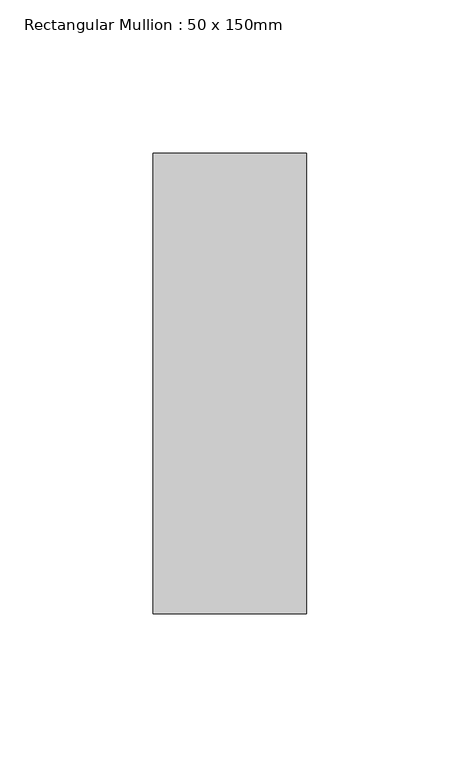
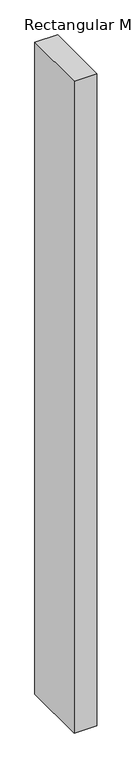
"""IFC4 building model written with IfcOpenShell, lengths in millimetres: member geometry, Rectangular Mullion : 50 x 150mm."""

import ifcopenshell
import ifcopenshell.guid

model = None  # the IFC model being written
_history = None  # IfcOwnerHistory: only IFC2X3 demands one
_inside = {}  # id of a spatial element -> (the spatial element, [elements in it])
_under = {}  # id of a project, library or spatial element -> (it, [spatial elements below it])
_declared = {}  # id of a project -> (the project, [libraries it declares])
_typed = {}  # id of a type object -> (the type object, [elements of that type])
_made_of = {}  # id of a material, layer set ... -> (it, [elements and type objects made of it])


def new_model(schema):
    """Start an empty IFC model of exactly this schema.

    Asked for "IFC4X3", IfcOpenShell would pick the latest addendum, in which some entities
    have other attributes; the version numbers below select the first issue.
    IFC2X3 requires an IfcOwnerHistory on every rooted entity: one is made here for all.
    """
    global model, _history
    if schema == "IFC4X3":
        model = ifcopenshell.file(schema_version=(4, 3, 0, 0))
    else:
        model = ifcopenshell.file(schema=schema)
    _inside.clear()
    _under.clear()
    _declared.clear()
    _typed.clear()
    _made_of.clear()
    _history = None
    if model.schema == "IFC2X3":
        org = make("IfcOrganization", Name="unknown")
        user = make(
            "IfcPersonAndOrganization",
            ThePerson=make("IfcPerson", FamilyName="unknown"),
            TheOrganization=org,
        )
        app = make(
            "IfcApplication",
            ApplicationDeveloper=org,
            Version="unknown",
            ApplicationFullName="unknown",
            ApplicationIdentifier="unknown",
        )
        _history = make(
            "IfcOwnerHistory",
            OwningUser=user,
            OwningApplication=app,
            ChangeAction="ADDED",
            CreationDate=0,
        )
    return model


def make(cls, **values):
    """One entity of the class cls with the attributes given. An attribute that is None is left unset."""
    return model.create_entity(
        cls, **{name: value for name, value in values.items() if value is not None}
    )


def rooted(cls, **values):
    """An entity with a GlobalId (a new one), such as an element, a storey or a relation."""
    return make(cls, GlobalId=ifcopenshell.guid.new(), OwnerHistory=_history, **values)


def si_unit(unit_type, name, prefix=None):
    """IfcSIUnit, for example si_unit("LENGTHUNIT", "METRE", prefix="MILLI")."""
    return make("IfcSIUnit", UnitType=unit_type, Prefix=prefix, Name=name)


def assignment(units):
    """IfcUnitAssignment: the units of a project."""
    return None if units is None else make("IfcUnitAssignment", Units=units)


def point(xyz):
    """IfcCartesianPoint."""
    return None if xyz is None else make("IfcCartesianPoint", Coordinates=xyz)


def direction(xyz):
    """IfcDirection."""
    return None if xyz is None else make("IfcDirection", DirectionRatios=xyz)


def frame(location, z_axis=None, x_axis=None):
    """IfcAxis2Placement3D, a coordinate frame: its origin and axes. An axis left out is left unset."""
    return make(
        "IfcAxis2Placement3D",
        Location=point(location),
        Axis=direction(z_axis),
        RefDirection=direction(x_axis),
    )


def origin():
    """The frame at (0, 0, 0) with its axes left unset."""
    return frame((0.0, 0.0, 0.0))


def place(relative_to, where):
    """IfcLocalPlacement: puts the frame where relative to a parent placement (None: the world)."""
    return make(
        "IfcLocalPlacement", PlacementRelTo=relative_to, RelativePlacement=where
    )


def context(
    kind, dimensions, precision=None, world=None, true_north=None, identifier=None
):
    """IfcGeometricRepresentationContext, for example the 3D "Model" context."""
    return make(
        "IfcGeometricRepresentationContext",
        ContextIdentifier=identifier,
        ContextType=kind,
        CoordinateSpaceDimension=dimensions,
        Precision=precision,
        WorldCoordinateSystem=world,
        TrueNorth=true_north,
    )


def project(units=None, contexts=None):
    """IfcProject with its units and contexts."""
    return rooted(
        "IfcProject",
        Name="project",
        RepresentationContexts=contexts,
        UnitsInContext=assignment(units),
    )


def spatial(cls, under=None, at=None, **own):
    """A site, building, storey or space (cls), placed at a placement, below another one or the project."""
    s = rooted(cls, ObjectPlacement=at, **own)
    if under is not None:
        _under.setdefault(under.id(), (under, []))[1].append(s)
    return s


def polyline(points):
    """IfcPolyline through the points."""
    return make("IfcPolyline", Points=[point(p) for p in points])


def outline(outer, holes=None, kind="AREA"):
    """IfcArbitraryClosedProfileDef: a profile drawn as a closed curve; with holes, ...WithVoids."""
    if holes is None:
        return make("IfcArbitraryClosedProfileDef", ProfileType=kind, OuterCurve=outer)
    return make(
        "IfcArbitraryProfileDefWithVoids",
        ProfileType=kind,
        OuterCurve=outer,
        InnerCurves=holes,
    )


def extrude(swept, where, along, depth):
    """IfcExtrudedAreaSolid: the profile swept, set in the frame where, extruded along a direction by depth."""
    return make(
        "IfcExtrudedAreaSolid",
        SweptArea=swept,
        Position=where,
        ExtrudedDirection=direction(along),
        Depth=depth,
    )


def shape(context_of_items, identifier, shape_type, items):
    """IfcShapeRepresentation: the items that make up one representation, for example the "Body"."""
    return make(
        "IfcShapeRepresentation",
        ContextOfItems=context_of_items,
        RepresentationIdentifier=identifier,
        RepresentationType=shape_type,
        Items=items,
    )


def source(mapping_origin, context_of_items, identifier, shape_type, items):
    """IfcRepresentationMap: a shape defined once, which mapped items show again and again."""
    return make(
        "IfcRepresentationMap",
        MappingOrigin=mapping_origin,
        MappedRepresentation=shape(context_of_items, identifier, shape_type, items),
    )


def transform(
    local_origin,
    x_axis=None,
    y_axis=None,
    z_axis=None,
    scale=None,
    scale2=None,
    scale3=None,
    uniform=True,
):
    """IfcCartesianTransformationOperator3D, or its non-uniform kind. x_axis, y_axis, z_axis: its Axis1, 2, 3."""
    if uniform:
        return make(
            "IfcCartesianTransformationOperator3D",
            Axis1=direction(x_axis),
            Axis2=direction(y_axis),
            LocalOrigin=point(local_origin),
            Scale=scale,
            Axis3=direction(z_axis),
        )
    return make(
        "IfcCartesianTransformationOperator3DnonUniform",
        Axis1=direction(x_axis),
        Axis2=direction(y_axis),
        LocalOrigin=point(local_origin),
        Scale=scale,
        Axis3=direction(z_axis),
        Scale2=scale2,
        Scale3=scale3,
    )


def mapped(mapping_source, mapping_target):
    """IfcMappedItem: shows the shape of a source again, moved by a transform."""
    return make(
        "IfcMappedItem", MappingSource=mapping_source, MappingTarget=mapping_target
    )


def made_of(thing, what):
    """Note that an element or type object is made of a material, layer set ...; save() writes the relation."""
    if what is not None:
        _made_of.setdefault(what.id(), (what, []))[1].append(thing)
    return thing


def element(
    cls,
    number,
    at=None,
    inside=None,
    cuts=None,
    type_object=None,
    material=None,
    context=None,
    identifier="Body",
    shape_type=None,
    held_by="IfcProductDefinitionShape",
    body=None,
    shapes=None,
    **own,
):
    """One element of the class cls, such as IfcWall. Its Tag is "e" and its number.

    at: its placement. inside: the storey or other place that contains it. cuts: it is an
    opening in that element (IfcRelVoidsElement). A single representation is given by context,
    identifier, shape_type and body (its items); several are given by shapes. held_by: the class
    of the entity that holds the representations. save() writes the other relations.
    """
    e = rooted(cls, Tag="e%d" % number, ObjectPlacement=at, **own)
    if body is not None:
        shapes = [shape(context, identifier, shape_type, body)]
    if shapes is not None:
        e.Representation = make(held_by, Representations=shapes)
    if inside is not None:
        _inside.setdefault(inside.id(), (inside, []))[1].append(e)
    if cuts is not None:
        rooted(
            "IfcRelVoidsElement", RelatingBuildingElement=cuts, RelatedOpeningElement=e
        )
    if type_object is not None:
        _typed.setdefault(type_object.id(), (type_object, []))[1].append(e)
    return made_of(e, material)


def aggregate(whole, parts):
    """IfcRelAggregates: a whole, such as a stair, and the parts it consists of."""
    return rooted("IfcRelAggregates", RelatingObject=whole, RelatedObjects=parts)


def save(model, path):
    """Write the relations noted so far, then the file.

    IfcRelAggregates (storeys below a building ...), IfcRelContainedInSpatialStructure (elements
    in a storey), IfcRelDefinesByType, IfcRelAssociatesMaterial and IfcRelDeclares: one each for
    every whole, place, type object, material and project.
    """
    for whole, parts in _under.values():
        aggregate(whole, parts)
    for where, things in _inside.values():
        rooted(
            "IfcRelContainedInSpatialStructure",
            RelatedElements=things,
            RelatingStructure=where,
        )
    for kind, things in _typed.values():
        rooted("IfcRelDefinesByType", RelatedObjects=things, RelatingType=kind)
    for what, things in _made_of.values():
        rooted("IfcRelAssociatesMaterial", RelatedObjects=things, RelatingMaterial=what)
    for by, libraries in _declared.values():
        rooted("IfcRelDeclares", RelatingContext=by, RelatedDefinitions=libraries)
    model.write(path)


def rectangular_mullion_50_x_150mm_c13bad7a(model_context):
    return source(origin(), model_context, "Body", "SweptSolid", [
        extrude(outline(polyline([(0.0, 75.0), (0.0, -75.0), (-50.0, -75.0), (-50.0, 75.0), (0.0, 75.0)])), frame((0.0, 0.0, -1523.7250795), z_axis=(0.0, 0.0, 1.0), x_axis=(1.0, 0.0, 0.0)), (0.0, 0.0, 1.0), 1523.7250795),
    ])


if __name__ == "__main__":
    model = new_model("IFC4")
    model_context = context("Model", 3, world=origin())
    ifc_project = project(units=[si_unit("LENGTHUNIT", "METRE", prefix="MILLI")], contexts=[model_context])
    site = spatial("IfcSite", under=ifc_project)
    building = spatial("IfcBuilding", under=site)
    placement = place(None, origin())
    rectangular_mullion_50_x_150mm_shape = rectangular_mullion_50_x_150mm_c13bad7a(model_context)
    element("IfcMember", 1, ObjectType="Rectangular Mullion : 50 x 150mm", at=placement, inside=building, context=model_context, shape_type="MappedRepresentation", body=[
        mapped(rectangular_mullion_50_x_150mm_shape, transform((0.0, 0.0, 0.0), x_axis=(1.0, 0.0, 0.0), y_axis=(0.0, 1.0, 0.0), z_axis=(0.0, 0.0, 1.0))),
    ])
    save(model, "model.ifc")
